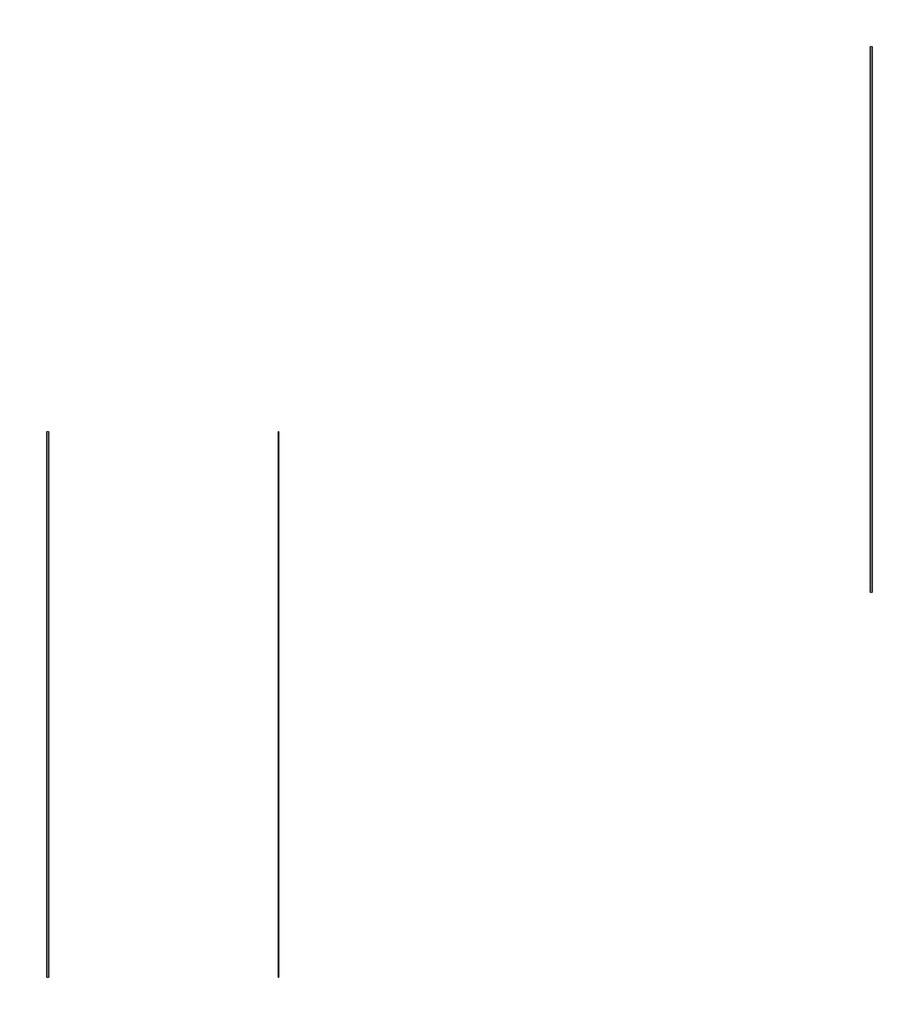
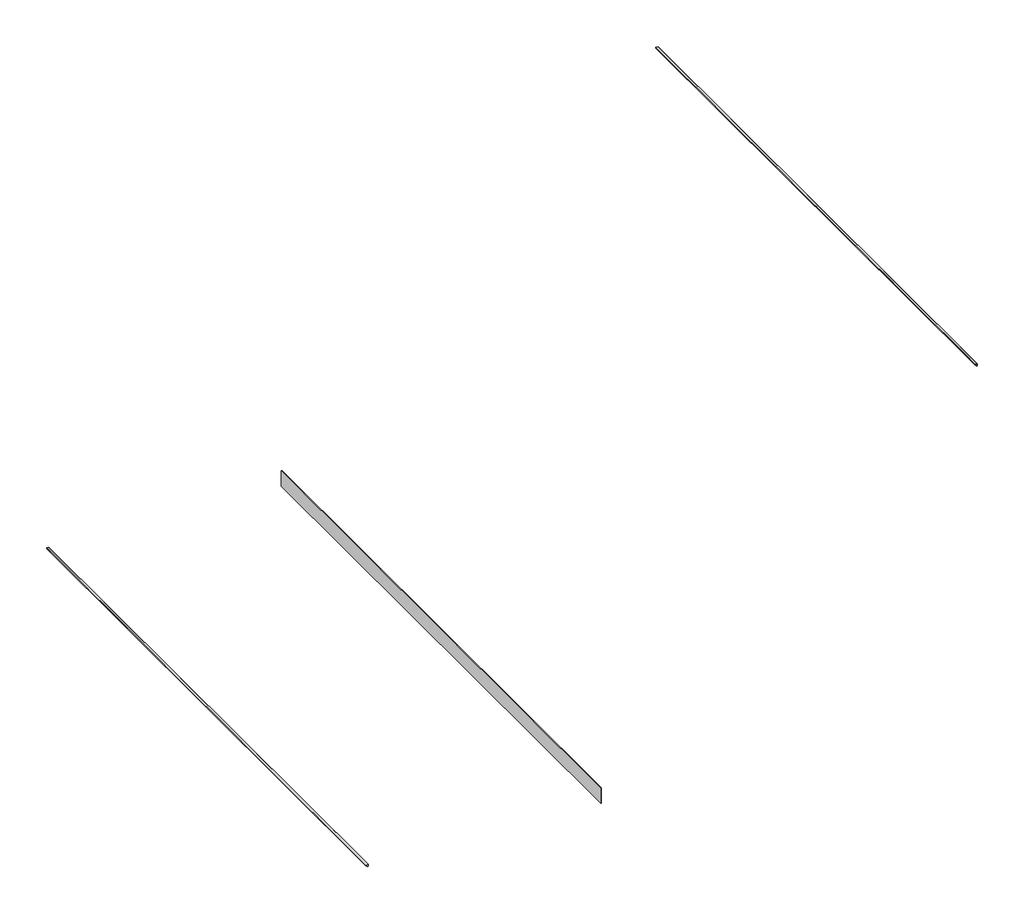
# One storey: 3 proxies.
"""IFC4 building model written with IfcOpenShell, lengths in millimetres."""

from ifc_helpers import new_model, si_unit, point, frame, frame_2d, origin, place, context, project, spatial, polyline, circle_curve, trimmed, segment, composite_curve, outline, extrude, faceted_brep, element, save

model = new_model("IFC4")

# Units and contexts
model_context = context("Model", 3, world=origin())
ifc_project = project(units=[si_unit("LENGTHUNIT", "METRE", prefix="MILLI")], contexts=[model_context])

# Site, building, storey
site = spatial("IfcSite", under=ifc_project)
building = spatial("IfcBuilding", under=site)
storey = spatial("IfcBuildingStorey", under=building, Name="Level 01 - B.O. Footing", Elevation=-3048.0)

# Proxies
placement = place(None, origin())
element("IfcBuildingElementProxy", 1, Name="NewTechWood - Composite Deck Fascia - Hawaiian Charcoal - US20", ObjectType="NewTechWood - Composite Deck Fascia - Hawaiian Charcoal - US20", at=placement, inside=storey, context=model_context, shape_type="SweptSolid", body=[
    extrude(outline(composite_curve([segment(polyline([(-2766.3, 929.908), (-2729.7875, 929.908)]), True, "CONTINUOUS"), segment(trimmed(circle_curve(frame_2d((-2729.7875, 928.3205)), 1.5875), [point((-2729.7875, 929.908))], [point((-2728.2, 928.3205))], False, "CARTESIAN"), True, "CONTINUOUS"), segment(polyline([(-2728.2, 928.3205), (-2728.2, 891.808)]), True, "CONTINUOUS"), segment(trimmed(circle_curve(frame_2d((-2729.7875, 891.808)), 1.5875), [point((-2728.2, 891.808))], [point((-2729.7875, 890.2205))], False, "CARTESIAN"), True, "CONTINUOUS"), segment(polyline([(-2729.7875, 890.2205), (-2741.6125, 890.2205)]), True, "CONTINUOUS"), segment(trimmed(circle_curve(frame_2d((-2741.6125, 891.808)), 1.5875), [point((-2741.6125, 890.2205))], [point((-2743.2, 891.808))], False, "CARTESIAN"), True, "CONTINUOUS"), segment(polyline([(-2743.2, 891.808), (-2743.2, 914.908), (-2766.3, 914.908)]), True, "CONTINUOUS"), segment(trimmed(circle_curve(frame_2d((-2766.3, 916.4955)), 1.5875), [point((-2766.3, 914.908))], [point((-2767.8875, 916.4955))], False, "CARTESIAN"), True, "CONTINUOUS"), segment(polyline([(-2767.8875, 916.4955), (-2767.8875, 928.3205)]), True, "CONTINUOUS"), segment(trimmed(circle_curve(frame_2d((-2766.3, 928.3205)), 1.5875), [point((-2767.8875, 928.3205))], [point((-2766.3, 929.908))], False, "CARTESIAN"), True, "CONTINUOUS")], self_intersect=False)), frame((0.0, -39163.5828077, 0.0), z_axis=(0.0, 1.0, 0.0), x_axis=(0.0, 0.0, 1.0)), (0.0, 0.0, 1.0), 9753.6),
])
element("IfcBuildingElementProxy", 2, Name="NewTechWood - Composite Deck Fascia - Brazilian Ipe - US05", ObjectType="NewTechWood - Composite Deck Fascia - Brazilian Ipe - US05", at=placement, inside=storey, context=model_context, shape_type="Brep", body=[
    faceted_brep([(5029.708, -39163.5828077, -2743.2), (5029.708, -39163.5828077, -2776.2398438), (5029.708, -39163.5828077, -3028.6), (5044.708, -39163.5828077, -3028.6), (5044.708, -39163.5828077, -2743.2), (5029.708, -29409.9828077, -2743.2), (5044.708, -29409.9828077, -2743.2), (5044.708, -29409.9828077, -3028.6), (5029.708, -29409.9828077, -3028.6), (5029.708, -29409.9828077, -2776.2398438)], [[[0, 1, 2, 3, 4]], [[5, 6, 7, 8, 9]], [[3, 2, 8, 7]], [[2, 1, 0, 5, 9, 8]], [[4, 3, 7, 6]], [[0, 4, 6, 5]]]),
])
element("IfcBuildingElementProxy", 3, Name="NewTechWood - Composite Deck Fascia - Westminister Gray - US20", ObjectType="NewTechWood - Composite Deck Fascia - Westminister Gray - US20", at=placement, inside=storey, context=model_context, shape_type="SweptSolid", body=[
    extrude(outline(composite_curve([segment(polyline([(-2766.3, 15653.2197481), (-2729.7875, 15653.2197481)]), True, "CONTINUOUS"), segment(trimmed(circle_curve(frame_2d((-2729.7875, 15651.6322481)), 1.5875), [point((-2729.7875, 15653.2197481))], [point((-2728.2, 15651.6322481))], False, "CARTESIAN"), True, "CONTINUOUS"), segment(polyline([(-2728.2, 15651.6322481), (-2728.2, 15615.1197481)]), True, "CONTINUOUS"), segment(trimmed(circle_curve(frame_2d((-2729.7875, 15615.1197481)), 1.5875), [point((-2728.2, 15615.1197481))], [point((-2729.7875, 15613.5322481))], False, "CARTESIAN"), True, "CONTINUOUS"), segment(polyline([(-2729.7875, 15613.5322481), (-2741.6125, 15613.5322481)]), True, "CONTINUOUS"), segment(trimmed(circle_curve(frame_2d((-2741.6125, 15615.1197481)), 1.5875), [point((-2741.6125, 15613.5322481))], [point((-2743.2, 15615.1197481))], False, "CARTESIAN"), True, "CONTINUOUS"), segment(polyline([(-2743.2, 15615.1197481), (-2743.2, 15638.2197481), (-2766.3, 15638.2197481)]), True, "CONTINUOUS"), segment(trimmed(circle_curve(frame_2d((-2766.3, 15639.8072481)), 1.5875), [point((-2766.3, 15638.2197481))], [point((-2767.8875, 15639.8072481))], False, "CARTESIAN"), True, "CONTINUOUS"), segment(polyline([(-2767.8875, 15639.8072481), (-2767.8875, 15651.6322481)]), True, "CONTINUOUS"), segment(trimmed(circle_curve(frame_2d((-2766.3, 15651.6322481)), 1.5875), [point((-2767.8875, 15651.6322481))], [point((-2766.3, 15653.2197481))], False, "CARTESIAN"), True, "CONTINUOUS")], self_intersect=False)), frame((0.0, -32274.334726, 0.0), z_axis=(0.0, 1.0, 0.0), x_axis=(0.0, 0.0, 1.0)), (0.0, 0.0, 1.0), 9753.6),
])

save(model, "model.ifc")
